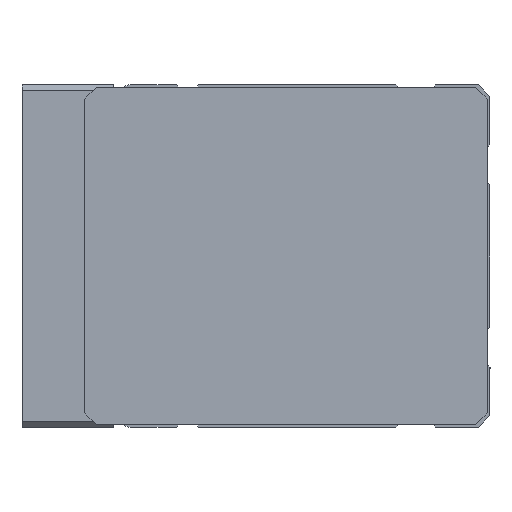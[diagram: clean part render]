
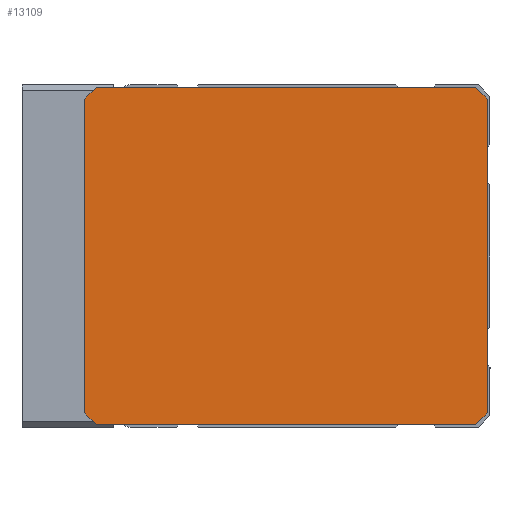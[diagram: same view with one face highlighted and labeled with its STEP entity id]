
A CAD part, left-side view. The second image highlights one B-rep face of the part: STEP entity #13109.
In plain terms, the highlighted planar face has unit normal (-1, 0, 0) as drawn and (0, 0, -1) by its records, which use the part's own axes.
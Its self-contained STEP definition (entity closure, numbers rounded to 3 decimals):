
#930=FACE_OUTER_BOUND('',#1688,.T.);
#1688=EDGE_LOOP('',(#8967,#8968,#8969,#8970,#8971,#8972,#8973,#8974));
#2690=LINE('',#18419,#3978);
#2693=LINE('',#18424,#3981);
#2695=LINE('',#18428,#3983);
#2697=LINE('',#18432,#3985);
#2699=LINE('',#18436,#3987);
#2701=LINE('',#18446,#3989);
#2704=LINE('',#18450,#3992);
#2705=LINE('',#18452,#3993);
#3978=VECTOR('',#15137,66.5);
#3981=VECTOR('',#15142,2.828);
#3983=VECTOR('',#15146,55.);
#3985=VECTOR('',#15150,2.828);
#3987=VECTOR('',#15154,66.5);
#3989=VECTOR('',#15164,55.);
#3992=VECTOR('',#15169,2.828);
#3993=VECTOR('',#15172,2.828);
#5609=VERTEX_POINT('',#18417);
#5610=VERTEX_POINT('',#18418);
#5611=VERTEX_POINT('',#18423);
#5612=VERTEX_POINT('',#18427);
#5613=VERTEX_POINT('',#18431);
#5614=VERTEX_POINT('',#18435);
#5617=VERTEX_POINT('',#18444);
#5618=VERTEX_POINT('',#18445);
#6952=EDGE_CURVE('',#5609,#5610,#2690,.T.);
#6955=EDGE_CURVE('',#5611,#5609,#2693,.T.);
#6957=EDGE_CURVE('',#5612,#5611,#2695,.T.);
#6959=EDGE_CURVE('',#5613,#5612,#2697,.T.);
#6961=EDGE_CURVE('',#5614,#5613,#2699,.T.);
#6965=EDGE_CURVE('',#5617,#5618,#2701,.T.);
#6968=EDGE_CURVE('',#5618,#5614,#2704,.T.);
#6969=EDGE_CURVE('',#5610,#5617,#2705,.T.);
#8967=ORIENTED_EDGE('',*,*,#6955,.T.);
#8968=ORIENTED_EDGE('',*,*,#6952,.T.);
#8969=ORIENTED_EDGE('',*,*,#6969,.T.);
#8970=ORIENTED_EDGE('',*,*,#6965,.T.);
#8971=ORIENTED_EDGE('',*,*,#6968,.T.);
#8972=ORIENTED_EDGE('',*,*,#6961,.T.);
#8973=ORIENTED_EDGE('',*,*,#6959,.T.);
#8974=ORIENTED_EDGE('',*,*,#6957,.T.);
#12661=PLANE('',#13991);
#13109=ADVANCED_FACE('',(#930),#12661,.T.);
#13991=AXIS2_PLACEMENT_3D('',#18453,#15173,#15174);
#15137=DIRECTION('',(0.,-1.,0.));
#15142=DIRECTION('',(0.707,-0.707,0.));
#15146=DIRECTION('',(1.,0.,0.));
#15150=DIRECTION('',(0.707,0.707,0.));
#15154=DIRECTION('',(0.,1.,0.));
#15164=DIRECTION('',(-1.,0.,0.));
#15169=DIRECTION('',(-0.707,0.707,0.));
#15172=DIRECTION('',(-0.707,-0.707,0.));
#15173=DIRECTION('center_axis',(0.,0.,
-1.));
#15174=DIRECTION('ref_axis',(-1.,0.,0.));
#18417=CARTESIAN_POINT('',(0.5,69.,-840.));
#18418=CARTESIAN_POINT('',(0.5,2.5,-840.));
#18419=CARTESIAN_POINT('',(0.5,69.,-840.));
#18423=CARTESIAN_POINT('',(-1.5,71.,-840.));
#18424=CARTESIAN_POINT('',(-1.5,71.,-840.));
#18427=CARTESIAN_POINT('',(-56.5,71.,-840.));
#18428=CARTESIAN_POINT('',(-56.5,71.,-840.));
#18431=CARTESIAN_POINT('',(-58.5,69.,-840.));
#18432=CARTESIAN_POINT('',(-58.5,69.,-840.));
#18435=CARTESIAN_POINT('',(-58.5,2.5,-840.));
#18436=CARTESIAN_POINT('',(-58.5,2.5,-840.));
#18444=CARTESIAN_POINT('',(-1.5,0.5,-840.));
#18445=CARTESIAN_POINT('',(-56.5,0.5,-840.));
#18446=CARTESIAN_POINT('',(-1.5,0.5,-840.));
#18450=CARTESIAN_POINT('',(-56.5,0.5,-840.));
#18452=CARTESIAN_POINT('',(0.5,2.5,-840.));
#18453=CARTESIAN_POINT('Origin',(-174.931,117.937,-840.));
